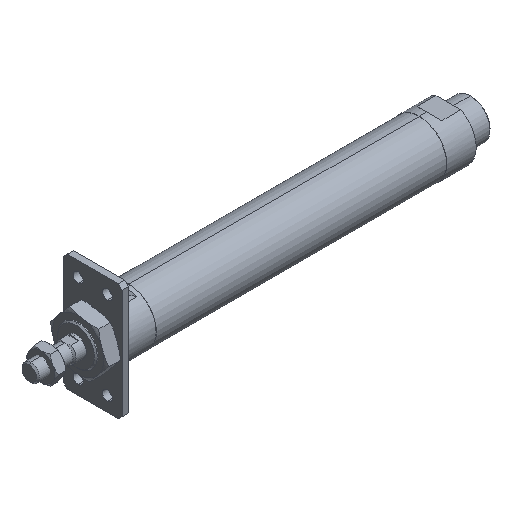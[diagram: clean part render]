
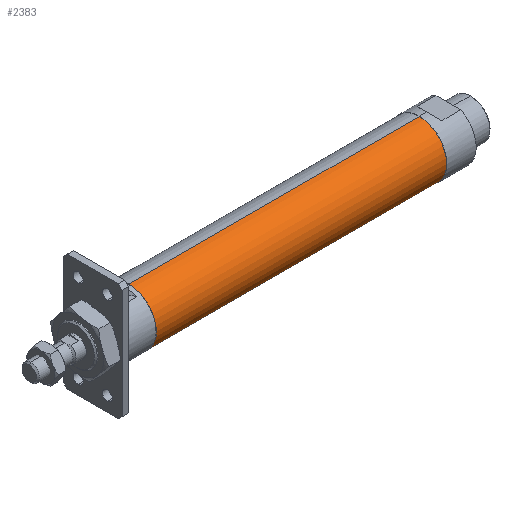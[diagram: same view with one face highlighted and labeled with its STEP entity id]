
A CAD part, isometric view. The second image highlights one B-rep face of the part: STEP entity #2383.
In plain terms, the highlighted cylindrical face has radius 18.8 mm (diameter 37.6 mm), a partial arc.
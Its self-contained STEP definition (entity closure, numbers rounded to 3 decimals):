
#42 = DIRECTION ( 'NONE',  ( 0., 0., 1. ) ) ;
#99 = CARTESIAN_POINT ( 'NONE',  ( 68., 0., 18.8 ) ) ;
#123 = VERTEX_POINT ( 'NONE', #2495 ) ;
#293 = FACE_OUTER_BOUND ( 'NONE', #3336, .T. ) ;
#310 = VERTEX_POINT ( 'NONE', #99 ) ;
#466 = CARTESIAN_POINT ( 'NONE',  ( -1.784, 0., -18.8 ) ) ;
#476 = VERTEX_POINT ( 'NONE', #609 ) ;
#609 = CARTESIAN_POINT ( 'NONE',  ( 267., 0., 18.8 ) ) ;
#665 = ORIENTED_EDGE ( 'NONE', *, *, #1154, .T. ) ;
#713 = DIRECTION ( 'NONE',  ( -1., 0., 0. ) ) ;
#989 = CYLINDRICAL_SURFACE ( 'NONE', #1306, 18.8 ) ;
#1035 = DIRECTION ( 'NONE',  ( -1., 0., 0. ) ) ;
#1108 = EDGE_CURVE ( 'NONE', #2345, #310, #4003, .T. ) ;
#1154 = EDGE_CURVE ( 'NONE', #123, #476, #2048, .T. ) ;
#1306 = AXIS2_PLACEMENT_3D ( 'NONE', #1820, #713, #3389 ) ;
#1581 = CARTESIAN_POINT ( 'NONE',  ( 68., 0., -18.8 ) ) ;
#1599 = AXIS2_PLACEMENT_3D ( 'NONE', #1633, #2116, #42 ) ;
#1633 = CARTESIAN_POINT ( 'NONE',  ( 68., 0., 0. ) ) ;
#1820 = CARTESIAN_POINT ( 'NONE',  ( -1.784, 0., 0. ) ) ;
#1939 = ORIENTED_EDGE ( 'NONE', *, *, #1108, .F. ) ;
#2048 = CIRCLE ( 'NONE', #3435, 18.8 ) ;
#2083 = VECTOR ( 'NONE', #1035, 1000. ) ;
#2116 = DIRECTION ( 'NONE',  ( -1., 0., 0. ) ) ;
#2229 = CARTESIAN_POINT ( 'NONE',  ( -1.784, 0., 18.8 ) ) ;
#2345 = VERTEX_POINT ( 'NONE', #1581 ) ;
#2383 = ADVANCED_FACE ( 'NONE', ( #293 ), #989, .T. ) ;
#2455 = VECTOR ( 'NONE', #3054, 1000. ) ;
#2495 = CARTESIAN_POINT ( 'NONE',  ( 267., 0., -18.8 ) ) ;
#2597 = DIRECTION ( 'NONE',  ( -1., 0., 0. ) ) ;
#2625 = ORIENTED_EDGE ( 'NONE', *, *, #3815, .F. ) ;
#2883 = LINE ( 'NONE', #466, #2083 ) ;
#3054 = DIRECTION ( 'NONE',  ( -1., 0., 0. ) ) ;
#3336 = EDGE_LOOP ( 'NONE', ( #2625, #665, #3373, #1939 ) ) ;
#3373 = ORIENTED_EDGE ( 'NONE', *, *, #3494, .T. ) ;
#3389 = DIRECTION ( 'NONE',  ( 0., 0., 1. ) ) ;
#3399 = LINE ( 'NONE', #2229, #2455 ) ;
#3435 = AXIS2_PLACEMENT_3D ( 'NONE', #3615, #2597, #4142 ) ;
#3494 = EDGE_CURVE ( 'NONE', #476, #310, #3399, .T. ) ;
#3615 = CARTESIAN_POINT ( 'NONE',  ( 267., 0., 0. ) ) ;
#3815 = EDGE_CURVE ( 'NONE', #123, #2345, #2883, .T. ) ;
#4003 = CIRCLE ( 'NONE', #1599, 18.8 ) ;
#4142 = DIRECTION ( 'NONE',  ( 0., 0., 1. ) ) ;
